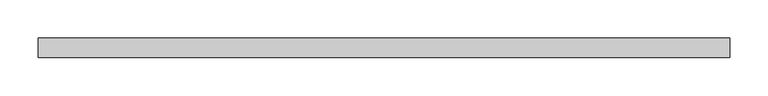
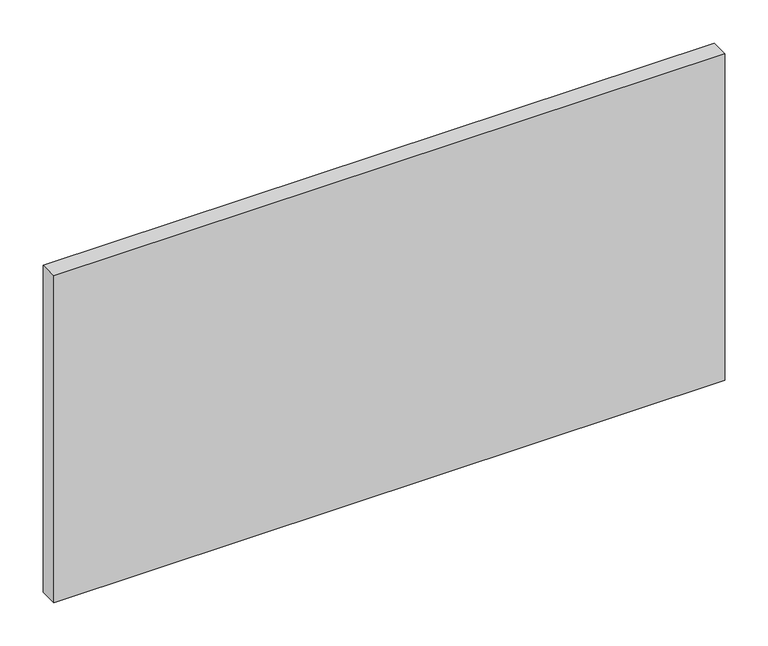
"""IFC4 building model written with IfcOpenShell, lengths in millimetres: plate geometry, Системная панель : С остеклением."""

from ifc_helpers import new_model, si_unit, origin, origin_with_axes, place, context, project, spatial, polyline, outline, extrude, source, transform, mapped, element, save


def plate_0b036903(model_context):
    return source(origin(), model_context, "Body", "SweptSolid", [
        extrude(outline(polyline([(450.0000002, 24.5), (-450.0000002, 24.5), (-450.0000002, 49.5), (450.0000002, 49.5), (450.0000002, 24.5)])), origin_with_axes(), (0.0, 0.0, 1.0), 463.2361077),
    ])


if __name__ == "__main__":
    model = new_model("IFC4")
    model_context = context("Model", 3, world=origin())
    ifc_project = project(units=[si_unit("LENGTHUNIT", "METRE", prefix="MILLI")], contexts=[model_context])
    site = spatial("IfcSite", under=ifc_project)
    building = spatial("IfcBuilding", under=site)
    placement = place(None, origin())
    plate_shape = plate_0b036903(model_context)
    element("IfcPlate", 1, ObjectType="Системная панель : С остеклением", at=placement, inside=building, context=model_context, shape_type="MappedRepresentation", body=[
        mapped(plate_shape, transform((0.0, 0.0, 0.0), x_axis=(1.0, 0.0, 0.0), y_axis=(0.0, 1.0, 0.0), z_axis=(0.0, 0.0, 1.0))),
    ])
    save(model, "model.ifc")
